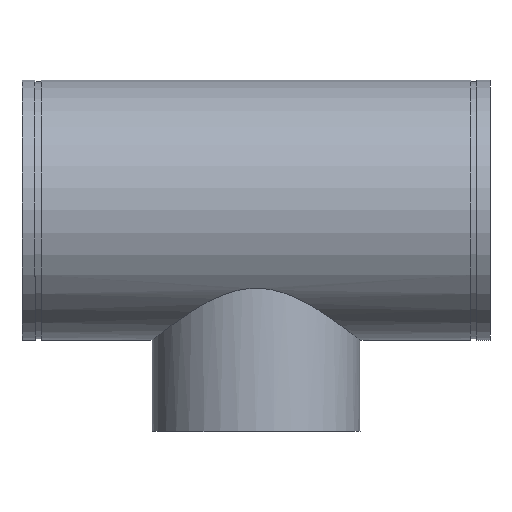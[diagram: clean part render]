
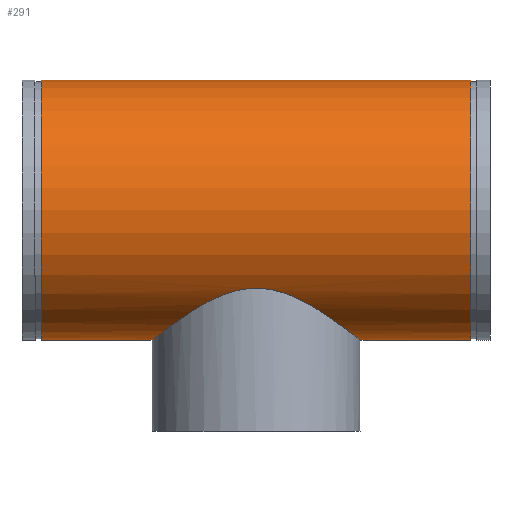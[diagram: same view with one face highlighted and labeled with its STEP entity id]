
A CAD part, top view. The second image highlights one B-rep face of the part: STEP entity #291.
In plain terms, the highlighted cylindrical face has radius 254 mm (diameter 508 mm), a full revolution.
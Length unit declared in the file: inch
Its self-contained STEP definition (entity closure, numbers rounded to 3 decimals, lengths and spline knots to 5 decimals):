
#45=B_SPLINE_CURVE_WITH_KNOTS('',3,(#511,#512,#513,#514,#515,#516,#517,
#518,#519,#520,#521,#522,#523,#524,#525,#526,#527,#528,#529,#530,#531,#532,
#533,#534,#535,#536,#537,#538,#539,#540,#541,#542,#543,#544,#545,#546,#547,
#548,#549,#550,#551,#552,#553,#554,#555,#556,#557,#558,#559,#560,#561,#562,
#563,#564,#565,#566,#567,#568,#569,#570,#571,#572,#573,#574,#575,#576,#577,
#578,#579,#580,#581,#582,#583,#584),.UNSPECIFIED.,.F.,.F.,(4,2,2,2,2,2,
2,2,2,2,2,2,2,2,2,2,2,2,2,2,2,2,2,2,2,2,2,2,2,2,2,2,2,2,2,2,4),(0.,2.08355,
4.16709,8.33418,12.50127,14.58482,16.66837,
20.70585,24.74334,26.76208,28.78083,30.79957,
32.81831,34.83706,36.8558,38.87455,40.89329,
44.93078,48.96826,51.05181,53.13536,57.30245,
61.46954,63.55308,65.63663,67.72018,69.80372,
73.97081,78.1379,80.22145,82.30499,86.34248,
90.37997,92.39871,94.41746,96.4362,98.45494),
 .UNSPECIFIED.);
#46=B_SPLINE_CURVE_WITH_KNOTS('',3,(#585,#586,#587,#588,#589,#590,#591,
#592,#593,#594,#595,#596,#597,#598,#599,#600,#601,#602,#603,#604,#605,#606,
#607,#608,#609,#610),.UNSPECIFIED.,.F.,.F.,(4,2,2,2,2,2,2,2,2,2,2,2,4),
(98.45494,100.47369,102.49243,104.51118,106.52992,
110.56741,114.60489,116.68844,118.77199,122.93908,
127.10617,129.18971,131.27326),.UNSPECIFIED.);
#51=LINE('',#508,#59);
#59=VECTOR('',#410,10.);
#67=CYLINDRICAL_SURFACE('',#338,10.);
#77=FACE_BOUND('',#108,.T.);
#88=FACE_OUTER_BOUND('',#107,.T.);
#107=EDGE_LOOP('',(#221,#222,#223,#224));
#108=EDGE_LOOP('',(#225,#226));
#121=CIRCLE('',#321,10.);
#132=CIRCLE('',#337,10.);
#141=VERTEX_POINT('',#476);
#152=VERTEX_POINT('',#505);
#153=VERTEX_POINT('',#509);
#154=VERTEX_POINT('',#510);
#165=EDGE_CURVE('',#141,#141,#121,.T.);
#178=EDGE_CURVE('',#152,#152,#132,.T.);
#179=EDGE_CURVE('',#152,#141,#51,.T.);
#180=EDGE_CURVE('',#153,#154,#45,.T.);
#181=EDGE_CURVE('',#154,#153,#46,.T.);
#221=ORIENTED_EDGE('',*,*,#178,.T.);
#222=ORIENTED_EDGE('',*,*,#179,.T.);
#223=ORIENTED_EDGE('',*,*,#165,.T.);
#224=ORIENTED_EDGE('',*,*,#179,.F.);
#225=ORIENTED_EDGE('',*,*,#180,.F.);
#226=ORIENTED_EDGE('',*,*,#181,.F.);
#291=ADVANCED_FACE('',(#88,#77),#67,.T.);
#321=AXIS2_PLACEMENT_3D('',#477,#372,#373);
#337=AXIS2_PLACEMENT_3D('',#506,#406,#407);
#338=AXIS2_PLACEMENT_3D('',#507,#408,#409);
#372=DIRECTION('center_axis',(-1.,0.,0.));
#373=DIRECTION('ref_axis',(0.,-1.,0.));
#406=DIRECTION('center_axis',(1.,0.,0.));
#407=DIRECTION('ref_axis',(0.,-1.,0.));
#408=DIRECTION('center_axis',(-1.,0.,0.));
#409=DIRECTION('ref_axis',(0.,-1.,0.));
#410=DIRECTION('',(1.,0.,0.));
#476=CARTESIAN_POINT('',(16.5,10.,0.));
#477=CARTESIAN_POINT('Origin',(16.5,0.,0.));
#505=CARTESIAN_POINT('',(-16.5,10.,0.));
#506=CARTESIAN_POINT('Origin',(-16.5,0.,0.));
#507=CARTESIAN_POINT('Origin',(18.,0.,0.));
#508=CARTESIAN_POINT('',(18.,10.,0.));
#509=CARTESIAN_POINT('',(0.,-6.,-8.));
#510=CARTESIAN_POINT('',(-8.,-10.,0.));
#511=CARTESIAN_POINT('Ctrl Pts',(0.,-6.,-8.));
#512=CARTESIAN_POINT('Ctrl Pts',(0.27343,-6.,-8.));
#513=CARTESIAN_POINT('Ctrl Pts',(0.54578,-6.01885,-7.98596));
#514=CARTESIAN_POINT('Ctrl Pts',(1.08493,-6.09145,-7.93072));
#515=CARTESIAN_POINT('Ctrl Pts',(1.35174,-6.14515,-7.88953));
#516=CARTESIAN_POINT('Ctrl Pts',(2.1395,-6.34983,-7.72723));
#517=CARTESIAN_POINT('Ctrl Pts',(2.64796,-6.54435,-7.56726));
#518=CARTESIAN_POINT('Ctrl Pts',(3.61333,-6.99093,-7.15674));
#519=CARTESIAN_POINT('Ctrl Pts',(4.07095,-7.24276,-6.90579));
#520=CARTESIAN_POINT('Ctrl Pts',(4.70684,-7.62401,-6.47389));
#521=CARTESIAN_POINT('Ctrl Pts',(4.91038,-7.75177,-6.32073));
#522=CARTESIAN_POINT('Ctrl Pts',(5.29841,-8.00321,-5.9992));
#523=CARTESIAN_POINT('Ctrl Pts',(5.48289,-8.12688,-5.83081));
#524=CARTESIAN_POINT('Ctrl Pts',(5.99395,-8.47746,-5.31976));
#525=CARTESIAN_POINT('Ctrl Pts',(6.31644,-8.70974,-4.93612));
#526=CARTESIAN_POINT('Ctrl Pts',(6.89473,-9.13781,-4.08967));
#527=CARTESIAN_POINT('Ctrl Pts',(7.15054,-9.33343,-3.62678));
#528=CARTESIAN_POINT('Ctrl Pts',(7.46387,-9.57627,-2.89164));
#529=CARTESIAN_POINT('Ctrl Pts',(7.55679,-9.64897,-2.63957));
#530=CARTESIAN_POINT('Ctrl Pts',(7.71716,-9.77508,-2.12554));
#531=CARTESIAN_POINT('Ctrl Pts',(7.7846,-9.82848,-1.86356));
#532=CARTESIAN_POINT('Ctrl Pts',(7.89255,-9.91419,-1.33439));
#533=CARTESIAN_POINT('Ctrl Pts',(7.93306,-9.94652,-1.06713));
#534=CARTESIAN_POINT('Ctrl Pts',(7.98679,-9.98942,-0.5324));
#535=CARTESIAN_POINT('Ctrl Pts',(8.,-10.,-0.26493));
#536=CARTESIAN_POINT('Ctrl Pts',(8.,-10.,0.26493));
#537=CARTESIAN_POINT('Ctrl Pts',(7.98679,-9.98942,0.5324));
#538=CARTESIAN_POINT('Ctrl Pts',(7.93306,-9.94652,1.06713));
#539=CARTESIAN_POINT('Ctrl Pts',(7.89255,-9.91419,1.33439));
#540=CARTESIAN_POINT('Ctrl Pts',(7.7846,-9.82848,1.86356));
#541=CARTESIAN_POINT('Ctrl Pts',(7.71716,-9.77508,2.12554));
#542=CARTESIAN_POINT('Ctrl Pts',(7.55679,-9.64897,2.63957));
#543=CARTESIAN_POINT('Ctrl Pts',(7.46387,-9.57627,2.89164));
#544=CARTESIAN_POINT('Ctrl Pts',(7.15054,-9.33343,3.62678));
#545=CARTESIAN_POINT('Ctrl Pts',(6.89473,-9.13781,4.08967));
#546=CARTESIAN_POINT('Ctrl Pts',(6.31644,-8.70974,4.93612));
#547=CARTESIAN_POINT('Ctrl Pts',(5.99395,-8.47746,5.31976));
#548=CARTESIAN_POINT('Ctrl Pts',(5.48289,-8.12688,5.83081));
#549=CARTESIAN_POINT('Ctrl Pts',(5.29841,-8.00321,5.9992));
#550=CARTESIAN_POINT('Ctrl Pts',(4.91038,-7.75177,6.32073));
#551=CARTESIAN_POINT('Ctrl Pts',(4.70684,-7.62401,6.47389));
#552=CARTESIAN_POINT('Ctrl Pts',(4.07095,-7.24276,6.90579));
#553=CARTESIAN_POINT('Ctrl Pts',(3.61333,-6.99093,7.15674));
#554=CARTESIAN_POINT('Ctrl Pts',(2.64796,-6.54435,7.56726));
#555=CARTESIAN_POINT('Ctrl Pts',(2.1395,-6.34983,7.72723));
#556=CARTESIAN_POINT('Ctrl Pts',(1.35174,-6.14515,7.88953));
#557=CARTESIAN_POINT('Ctrl Pts',(1.08493,-6.09145,7.93072));
#558=CARTESIAN_POINT('Ctrl Pts',(0.54578,-6.01885,7.98596));
#559=CARTESIAN_POINT('Ctrl Pts',(0.27343,-6.,8.));
#560=CARTESIAN_POINT('Ctrl Pts',(-0.27343,-6.,8.));
#561=CARTESIAN_POINT('Ctrl Pts',(-0.54578,-6.01885,7.98596));
#562=CARTESIAN_POINT('Ctrl Pts',(-1.08493,-6.09145,7.93072));
#563=CARTESIAN_POINT('Ctrl Pts',(-1.35174,-6.14515,7.88953));
#564=CARTESIAN_POINT('Ctrl Pts',(-2.1395,-6.34983,7.72723));
#565=CARTESIAN_POINT('Ctrl Pts',(-2.64796,-6.54435,7.56726));
#566=CARTESIAN_POINT('Ctrl Pts',(-3.61333,-6.99093,7.15674));
#567=CARTESIAN_POINT('Ctrl Pts',(-4.07095,-7.24276,6.90579));
#568=CARTESIAN_POINT('Ctrl Pts',(-4.70684,-7.62401,6.47389));
#569=CARTESIAN_POINT('Ctrl Pts',(-4.91038,-7.75177,6.32073));
#570=CARTESIAN_POINT('Ctrl Pts',(-5.29841,-8.00321,5.9992));
#571=CARTESIAN_POINT('Ctrl Pts',(-5.48289,-8.12688,5.83081));
#572=CARTESIAN_POINT('Ctrl Pts',(-5.99395,-8.47746,5.31976));
#573=CARTESIAN_POINT('Ctrl Pts',(-6.31644,-8.70974,4.93612));
#574=CARTESIAN_POINT('Ctrl Pts',(-6.89473,-9.13781,4.08967));
#575=CARTESIAN_POINT('Ctrl Pts',(-7.15054,-9.33343,3.62678));
#576=CARTESIAN_POINT('Ctrl Pts',(-7.46387,-9.57627,2.89164));
#577=CARTESIAN_POINT('Ctrl Pts',(-7.55679,-9.64897,2.63957));
#578=CARTESIAN_POINT('Ctrl Pts',(-7.71716,-9.77508,2.12554));
#579=CARTESIAN_POINT('Ctrl Pts',(-7.7846,-9.82848,1.86356));
#580=CARTESIAN_POINT('Ctrl Pts',(-7.89255,-9.91419,1.33439));
#581=CARTESIAN_POINT('Ctrl Pts',(-7.93306,-9.94652,1.06713));
#582=CARTESIAN_POINT('Ctrl Pts',(-7.98679,-9.98942,0.5324));
#583=CARTESIAN_POINT('Ctrl Pts',(-8.,-10.,0.26493));
#584=CARTESIAN_POINT('Ctrl Pts',(-8.,-10.,0.));
#585=CARTESIAN_POINT('Ctrl Pts',(-8.,-10.,0.));
#586=CARTESIAN_POINT('Ctrl Pts',(-8.,-10.,-0.26493));
#587=CARTESIAN_POINT('Ctrl Pts',(-7.98679,-9.98942,-0.5324));
#588=CARTESIAN_POINT('Ctrl Pts',(-7.93306,-9.94652,-1.06713));
#589=CARTESIAN_POINT('Ctrl Pts',(-7.89255,-9.91419,-1.33439));
#590=CARTESIAN_POINT('Ctrl Pts',(-7.7846,-9.82848,-1.86356));
#591=CARTESIAN_POINT('Ctrl Pts',(-7.71716,-9.77508,-2.12554));
#592=CARTESIAN_POINT('Ctrl Pts',(-7.55679,-9.64897,-2.63957));
#593=CARTESIAN_POINT('Ctrl Pts',(-7.46387,-9.57627,-2.89164));
#594=CARTESIAN_POINT('Ctrl Pts',(-7.15054,-9.33343,-3.62678));
#595=CARTESIAN_POINT('Ctrl Pts',(-6.89473,-9.13781,-4.08967));
#596=CARTESIAN_POINT('Ctrl Pts',(-6.31644,-8.70974,-4.93612));
#597=CARTESIAN_POINT('Ctrl Pts',(-5.99395,-8.47746,-5.31976));
#598=CARTESIAN_POINT('Ctrl Pts',(-5.48289,-8.12688,-5.83081));
#599=CARTESIAN_POINT('Ctrl Pts',(-5.29841,-8.00321,-5.9992));
#600=CARTESIAN_POINT('Ctrl Pts',(-4.91038,-7.75177,-6.32073));
#601=CARTESIAN_POINT('Ctrl Pts',(-4.70684,-7.62401,-6.47389));
#602=CARTESIAN_POINT('Ctrl Pts',(-4.07095,-7.24276,-6.90579));
#603=CARTESIAN_POINT('Ctrl Pts',(-3.61333,-6.99093,-7.15674));
#604=CARTESIAN_POINT('Ctrl Pts',(-2.64796,-6.54435,-7.56726));
#605=CARTESIAN_POINT('Ctrl Pts',(-2.1395,-6.34983,-7.72723));
#606=CARTESIAN_POINT('Ctrl Pts',(-1.35174,-6.14515,-7.88953));
#607=CARTESIAN_POINT('Ctrl Pts',(-1.08493,-6.09145,-7.93072));
#608=CARTESIAN_POINT('Ctrl Pts',(-0.54578,-6.01885,-7.98596));
#609=CARTESIAN_POINT('Ctrl Pts',(-0.27343,-6.,-8.));
#610=CARTESIAN_POINT('Ctrl Pts',(0.,-6.,-8.));
